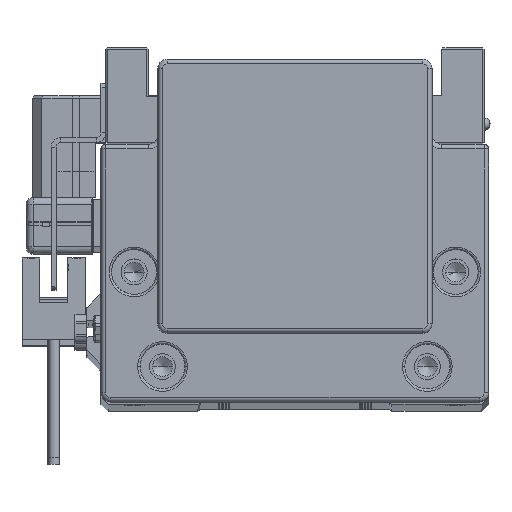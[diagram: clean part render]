
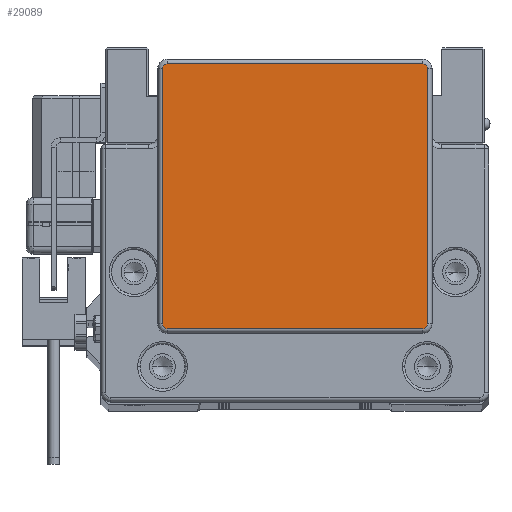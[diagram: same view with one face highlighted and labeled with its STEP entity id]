
A CAD part, top view. The second image highlights one B-rep face of the part: STEP entity #29089.
In plain terms, the highlighted planar face has unit normal (0, 0, 1).
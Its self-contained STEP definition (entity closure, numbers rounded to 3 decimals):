
#159 = DIRECTION ( 'NONE',  ( 0., 0., 1. ) ) ;
#189 = CARTESIAN_POINT ( 'NONE',  ( -27., 35.25, 17. ) ) ;
#232 = CIRCLE ( 'NONE', #1955, 1. ) ;
#469 = DIRECTION ( 'NONE',  ( 0., 0., 1. ) ) ;
#766 = LINE ( 'NONE', #4819, #42100 ) ;
#1644 = CARTESIAN_POINT ( 'NONE',  ( 28., 34.25, 17. ) ) ;
#1955 = AXIS2_PLACEMENT_3D ( 'NONE', #11207, #27961, #31476 ) ;
#2151 = LINE ( 'NONE', #1644, #25294 ) ;
#2845 = VERTEX_POINT ( 'NONE', #13639 ) ;
#3253 = CIRCLE ( 'NONE', #11890, 1. ) ;
#3712 = VERTEX_POINT ( 'NONE', #30774 ) ;
#3828 = DIRECTION ( 'NONE',  ( 0., 0., 1. ) ) ;
#4249 = LINE ( 'NONE', #189, #43306 ) ;
#4273 = ORIENTED_EDGE ( 'NONE', *, *, #18415, .T. ) ;
#4472 = ORIENTED_EDGE ( 'NONE', *, *, #41361, .T. ) ;
#4816 = DIRECTION ( 'NONE',  ( 1., 0., 0. ) ) ;
#4819 = CARTESIAN_POINT ( 'NONE',  ( -28., -19.75, 17. ) ) ;
#5974 = DIRECTION ( 'NONE',  ( 1., 0., 0. ) ) ;
#7688 = CIRCLE ( 'NONE', #14597, 1. ) ;
#8829 = DIRECTION ( 'NONE',  ( -1., 0., 0. ) ) ;
#9399 = EDGE_CURVE ( 'NONE', #38324, #20118, #766, .T. ) ;
#11207 = CARTESIAN_POINT ( 'NONE',  ( -27., -19.75, 17. ) ) ;
#11647 = ORIENTED_EDGE ( 'NONE', *, *, #39460, .T. ) ;
#11890 = AXIS2_PLACEMENT_3D ( 'NONE', #38053, #33471, #4816 ) ;
#12457 = CARTESIAN_POINT ( 'NONE',  ( -27., -19.75, 17. ) ) ;
#13164 = CARTESIAN_POINT ( 'NONE',  ( -27., 34.25, 17. ) ) ;
#13223 = EDGE_CURVE ( 'NONE', #3712, #34273, #2151, .T. ) ;
#13639 = CARTESIAN_POINT ( 'NONE',  ( 27., 35.25, 17. ) ) ;
#13648 = AXIS2_PLACEMENT_3D ( 'NONE', #41240, #159, #16643 ) ;
#13814 = DIRECTION ( 'NONE',  ( 0., 1., 0. ) ) ;
#14597 = AXIS2_PLACEMENT_3D ( 'NONE', #13164, #469, #29648 ) ;
#14932 = ORIENTED_EDGE ( 'NONE', *, *, #18891, .T. ) ;
#16643 = DIRECTION ( 'NONE',  ( 1., 0., 0. ) ) ;
#18203 = CARTESIAN_POINT ( 'NONE',  ( -27., -20.75, 17. ) ) ;
#18415 = EDGE_CURVE ( 'NONE', #34273, #2845, #3253, .T. ) ;
#18643 = VERTEX_POINT ( 'NONE', #28264 ) ;
#18891 = EDGE_CURVE ( 'NONE', #40431, #3712, #44725, .T. ) ;
#19505 = FACE_OUTER_BOUND ( 'NONE', #43275, .T. ) ;
#20118 = VERTEX_POINT ( 'NONE', #39347 ) ;
#21294 = DIRECTION ( 'NONE',  ( 0., -1., 0. ) ) ;
#21428 = VECTOR ( 'NONE', #5974, 1000. ) ;
#23246 = CARTESIAN_POINT ( 'NONE',  ( 27., -20.75, 17. ) ) ;
#23964 = ORIENTED_EDGE ( 'NONE', *, *, #36465, .T. ) ;
#24648 = DIRECTION ( 'NONE',  ( 1., 0., 0. ) ) ;
#25294 = VECTOR ( 'NONE', #13814, 1000. ) ;
#27961 = DIRECTION ( 'NONE',  ( 0., 0., 1. ) ) ;
#28264 = CARTESIAN_POINT ( 'NONE',  ( -27., 35.25, 17. ) ) ;
#29089 = ADVANCED_FACE ( 'NONE', ( #19505 ), #31401, .T. ) ;
#29648 = DIRECTION ( 'NONE',  ( 1., 0., 0. ) ) ;
#30774 = CARTESIAN_POINT ( 'NONE',  ( 28., -19.75, 17. ) ) ;
#31401 = PLANE ( 'NONE',  #37404 ) ;
#31476 = DIRECTION ( 'NONE',  ( 1., 0., 0. ) ) ;
#31534 = ORIENTED_EDGE ( 'NONE', *, *, #13223, .T. ) ;
#31823 = CARTESIAN_POINT ( 'NONE',  ( -28., 34.25, 17. ) ) ;
#32906 = ORIENTED_EDGE ( 'NONE', *, *, #36780, .T. ) ;
#33471 = DIRECTION ( 'NONE',  ( 0., 0., 1. ) ) ;
#34273 = VERTEX_POINT ( 'NONE', #43347 ) ;
#34868 = LINE ( 'NONE', #23246, #21428 ) ;
#36465 = EDGE_CURVE ( 'NONE', #2845, #18643, #4249, .T. ) ;
#36780 = EDGE_CURVE ( 'NONE', #20118, #44047, #232, .T. ) ;
#37404 = AXIS2_PLACEMENT_3D ( 'NONE', #12457, #3828, #24648 ) ;
#38053 = CARTESIAN_POINT ( 'NONE',  ( 27., 34.25, 17. ) ) ;
#38324 = VERTEX_POINT ( 'NONE', #31823 ) ;
#39347 = CARTESIAN_POINT ( 'NONE',  ( -28., -19.75, 17. ) ) ;
#39460 = EDGE_CURVE ( 'NONE', #44047, #40431, #34868, .T. ) ;
#40431 = VERTEX_POINT ( 'NONE', #48947 ) ;
#41240 = CARTESIAN_POINT ( 'NONE',  ( 27., -19.75, 17. ) ) ;
#41361 = EDGE_CURVE ( 'NONE', #18643, #38324, #7688, .T. ) ;
#42100 = VECTOR ( 'NONE', #21294, 1000. ) ;
#43275 = EDGE_LOOP ( 'NONE', ( #23964, #4472, #47033, #32906, #11647, #14932, #31534, #4273 ) ) ;
#43306 = VECTOR ( 'NONE', #8829, 1000. ) ;
#43347 = CARTESIAN_POINT ( 'NONE',  ( 28., 34.25, 17. ) ) ;
#44047 = VERTEX_POINT ( 'NONE', #18203 ) ;
#44725 = CIRCLE ( 'NONE', #13648, 1. ) ;
#47033 = ORIENTED_EDGE ( 'NONE', *, *, #9399, .T. ) ;
#48947 = CARTESIAN_POINT ( 'NONE',  ( 27., -20.75, 17. ) ) ;
